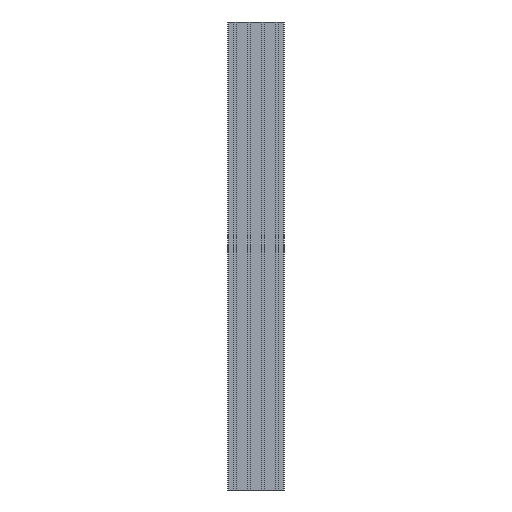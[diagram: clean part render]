
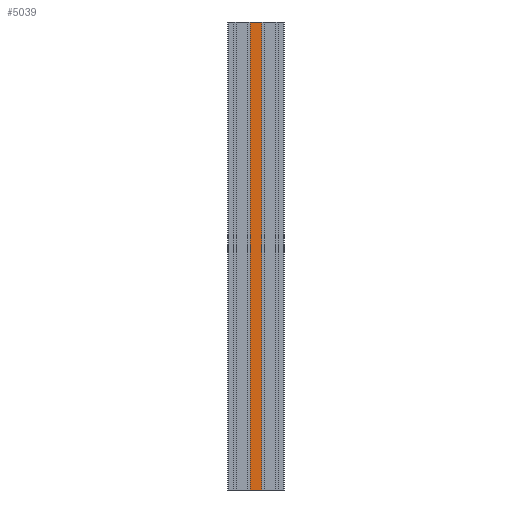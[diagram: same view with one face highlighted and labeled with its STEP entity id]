
A CAD part, front view. The second image highlights one B-rep face of the part: STEP entity #5039.
In plain terms, the highlighted planar face has unit normal (0, -1, 0).
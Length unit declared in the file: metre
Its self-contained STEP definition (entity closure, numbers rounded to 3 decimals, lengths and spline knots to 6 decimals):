
#164=PLANE('',#5466);
#413=FACE_OUTER_BOUND('',#667,.T.);
#667=EDGE_LOOP('',(#4120,#4121,#4122,#4123));
#1191=LINE('',#8230,#1755);
#1192=LINE('',#8233,#1756);
#1193=LINE('',#8235,#1757);
#1194=LINE('',#8236,#1758);
#1755=VECTOR('',#6766,1.);
#1756=VECTOR('',#6769,0.0237);
#1757=VECTOR('',#6770,0.0237);
#1758=VECTOR('',#6771,1.);
#2454=VERTEX_POINT('',#8226);
#2455=VERTEX_POINT('',#8228);
#2456=VERTEX_POINT('',#8232);
#2457=VERTEX_POINT('',#8234);
#3165=EDGE_CURVE('',#2454,#2455,#1191,.T.);
#3166=EDGE_CURVE('',#2456,#2454,#1192,.T.);
#3167=EDGE_CURVE('',#2457,#2455,#1193,.T.);
#3168=EDGE_CURVE('',#2456,#2457,#1194,.T.);
#4120=ORIENTED_EDGE('',*,*,#3166,.T.);
#4121=ORIENTED_EDGE('',*,*,#3165,.T.);
#4122=ORIENTED_EDGE('',*,*,#3167,.F.);
#4123=ORIENTED_EDGE('',*,*,#3168,.F.);
#5039=ADVANCED_FACE('',(#413),#164,.T.);
#5466=AXIS2_PLACEMENT_3D('',#8231,#6767,#6768);
#6766=DIRECTION('',(0.,0.,1.));
#6767=DIRECTION('center_axis',(0.,-1.,0.));
#6768=DIRECTION('ref_axis',(0.,0.,-1.));
#6769=DIRECTION('',(1.,0.,0.));
#6770=DIRECTION('',(1.,0.,0.));
#6771=DIRECTION('',(0.,0.,1.));
#8226=CARTESIAN_POINT('',(0.01185,-0.015,0.));
#8228=CARTESIAN_POINT('',(0.01185,-0.015,1.));
#8230=CARTESIAN_POINT('',(0.01185,-0.015,0.));
#8231=CARTESIAN_POINT('Origin',(-0.01185,-0.015,
0.));
#8232=CARTESIAN_POINT('',(-0.01185,-0.015,0.));
#8233=CARTESIAN_POINT('',(-0.01185,-0.015,0.));
#8234=CARTESIAN_POINT('',(-0.01185,-0.015,1.));
#8235=CARTESIAN_POINT('',(-0.01185,-0.015,1.));
#8236=CARTESIAN_POINT('',(-0.01185,-0.015,0.));
